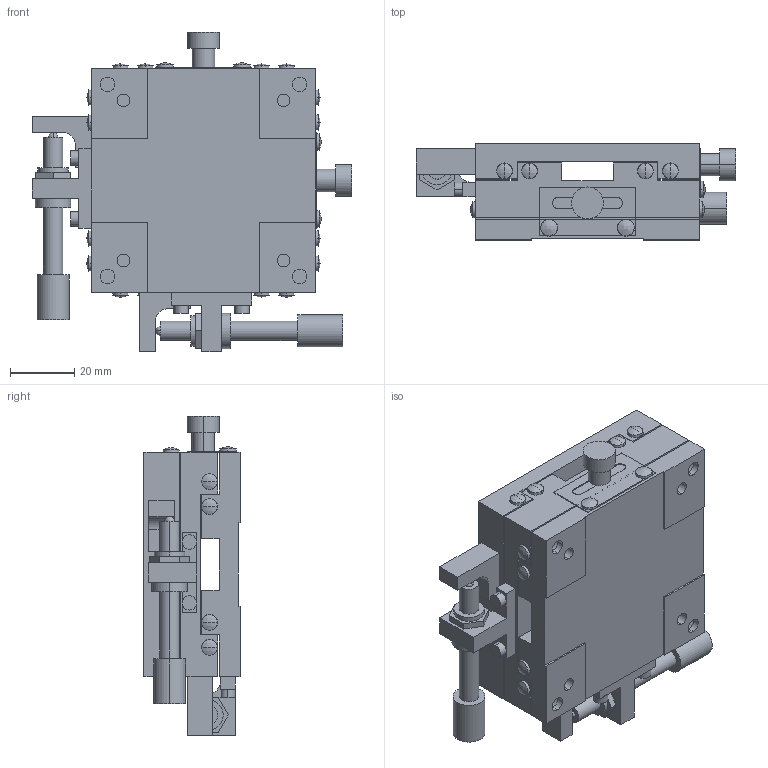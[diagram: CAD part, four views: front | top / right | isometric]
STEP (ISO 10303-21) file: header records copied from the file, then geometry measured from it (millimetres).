
FILE_DESCRIPTION (( 'STEP AP203' ), '1' );
FILE_NAME ('LD-7047-SR6.STEP', '2011-08-10T05:30:14', ( '' ), ( '' ), 'SwSTEP 2.0', 'SolidWorks 2011', '' );
FILE_SCHEMA (( 'CONFIG_CONTROL_DESIGN' ));
Length unit declared in the file: millimetre
Products named in the file (4): LD-7047-SR6; LD-7047-SR6-3; LD-7047-SR6-2; LD-7047-SR6-1
Assembly tree (3 placements, depth 2):
  LD-7047-SR6
    LD-7047-SR6-3
    LD-7047-SR6-1
    LD-7047-SR6-2
Bounding box: 99.8 x 30 x 99.8 mm (x, y, z)
Volume: 139332 mm3; surface area: 52030.3 mm2
Topology: 5 solids, 5 shells, 350 faces, 836 edges, 534 vertices
Faces by surface type: plane 166, cylinder 96, cone 48, sphere 36, bspline 4
Entity records: 11310 total; most frequent: CARTESIAN_POINT 2562, DIRECTION 1820, ORIENTED_EDGE 1640, EDGE_CURVE 820, AXIS2_PLACEMENT_3D 664, VERTEX_POINT 530, VECTOR 492, LINE 492
